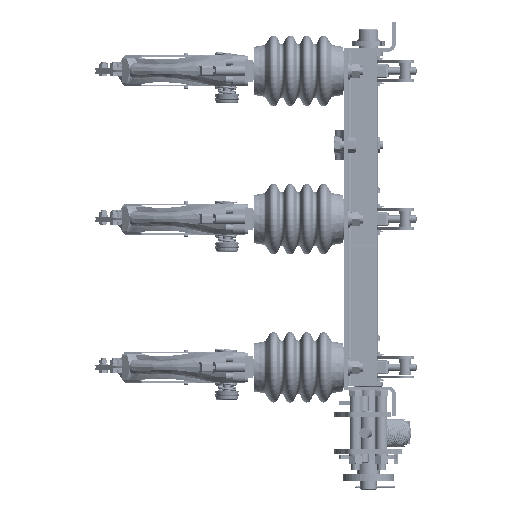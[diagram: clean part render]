
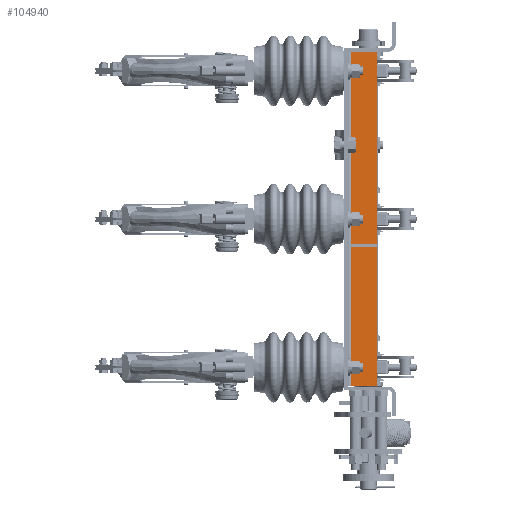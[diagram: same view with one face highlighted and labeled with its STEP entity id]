
A CAD part, front view. The second image highlights one B-rep face of the part: STEP entity #104940.
In plain terms, the highlighted planar face has unit normal (0, -1, 0).
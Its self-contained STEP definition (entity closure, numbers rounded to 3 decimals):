
#2129 = LINE ( 'NONE', #107639, #132227 ) ;
#6605 = ORIENTED_EDGE ( 'NONE', *, *, #161921, .T. ) ;
#14413 = CARTESIAN_POINT ( 'NONE',  ( 10., -215., -225.75 ) ) ;
#24612 = VERTEX_POINT ( 'NONE', #79107 ) ;
#27406 = FACE_OUTER_BOUND ( 'NONE', #51352, .T. ) ;
#31356 = VERTEX_POINT ( 'NONE', #201750 ) ;
#38160 = VECTOR ( 'NONE', #211689, 1000. ) ;
#43696 = CARTESIAN_POINT ( 'NONE',  ( 10., -215., 225.75 ) ) ;
#51352 = EDGE_LOOP ( 'NONE', ( #6605, #201338, #151109, #122791 ) ) ;
#51443 = EDGE_CURVE ( 'NONE', #31356, #104279, #2129, .T. ) ;
#60846 = DIRECTION ( 'NONE',  ( 0., 0., 1. ) ) ;
#67737 = LINE ( 'NONE', #43696, #197937 ) ;
#73348 = DIRECTION ( 'NONE',  ( 0., 0., -1. ) ) ;
#79107 = CARTESIAN_POINT ( 'NONE',  ( 10., -215., 225.75 ) ) ;
#84458 = AXIS2_PLACEMENT_3D ( 'NONE', #183127, #128891, #60846 ) ;
#91499 = EDGE_CURVE ( 'NONE', #24612, #149716, #181742, .T. ) ;
#98471 = CARTESIAN_POINT ( 'NONE',  ( 45., -215., -225.75 ) ) ;
#104279 = VERTEX_POINT ( 'NONE', #98471 ) ;
#104940 = ADVANCED_FACE ( 'NONE', ( #27406 ), #164512, .F. ) ;
#105332 = DIRECTION ( 'NONE',  ( 0., 0., -1. ) ) ;
#107639 = CARTESIAN_POINT ( 'NONE',  ( 45., -215., 231. ) ) ;
#110765 = EDGE_CURVE ( 'NONE', #31356, #24612, #67737, .T. ) ;
#121065 = CARTESIAN_POINT ( 'NONE',  ( 10., -215., -225.75 ) ) ;
#122791 = ORIENTED_EDGE ( 'NONE', *, *, #91499, .T. ) ;
#128891 = DIRECTION ( 'NONE',  ( 0., 1., 0. ) ) ;
#131090 = DIRECTION ( 'NONE',  ( -1., 0., 0. ) ) ;
#132227 = VECTOR ( 'NONE', #105332, 1000. ) ;
#147571 = CARTESIAN_POINT ( 'NONE',  ( 10., -215., 231. ) ) ;
#149716 = VERTEX_POINT ( 'NONE', #14413 ) ;
#151109 = ORIENTED_EDGE ( 'NONE', *, *, #110765, .T. ) ;
#151302 = VECTOR ( 'NONE', #73348, 1000. ) ;
#161921 = EDGE_CURVE ( 'NONE', #149716, #104279, #179448, .T. ) ;
#164512 = PLANE ( 'NONE',  #84458 ) ;
#179448 = LINE ( 'NONE', #121065, #38160 ) ;
#181742 = LINE ( 'NONE', #147571, #151302 ) ;
#183127 = CARTESIAN_POINT ( 'NONE',  ( 10., -215., 231. ) ) ;
#197937 = VECTOR ( 'NONE', #131090, 1000. ) ;
#201338 = ORIENTED_EDGE ( 'NONE', *, *, #51443, .F. ) ;
#201750 = CARTESIAN_POINT ( 'NONE',  ( 45., -215., 225.75 ) ) ;
#211689 = DIRECTION ( 'NONE',  ( 1., 0., 0. ) ) ;
